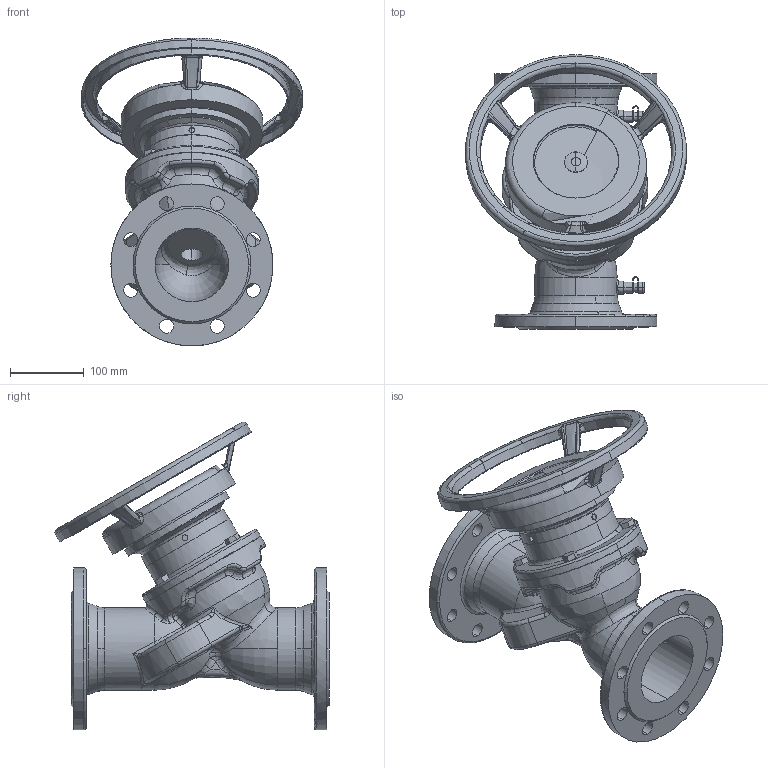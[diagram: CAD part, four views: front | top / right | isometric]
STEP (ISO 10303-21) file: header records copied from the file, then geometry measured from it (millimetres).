
FILE_DESCRIPTION (( 'STEP AP203' ), '1' );
FILE_NAME ('RC4240-DN100.STEP', '2017-04-23T08:50:39', ( 'User' ), ( 'shendu' ), 'SwSTEP 2.0', 'SolidWorks 2015', '' );
FILE_SCHEMA (( 'CONFIG_CONTROL_DESIGN' ));
Products named in the file (1): RC4240-DN100
Bounding box: 299.2 x 372.29 x 418.08 mm (x, y, z)
Volume: 5309823.5 mm3; surface area: 885425.6 mm2
Topology: 17 solids, 17 shells, 727 faces, 1822 edges, 1095 vertices
Faces by surface type: bspline 304, cylinder 227, plane 115, torus 45, cone 36
Entity records: 63309 total; most frequent: CARTESIAN_POINT 48259, ORIENTED_EDGE 3544, DIRECTION 2386, EDGE_CURVE 1772, VERTEX_POINT 1095, AXIS2_PLACEMENT_3D 1014, EDGE_LOOP 831, B_SPLINE_CURVE_WITH_KNOTS 765
